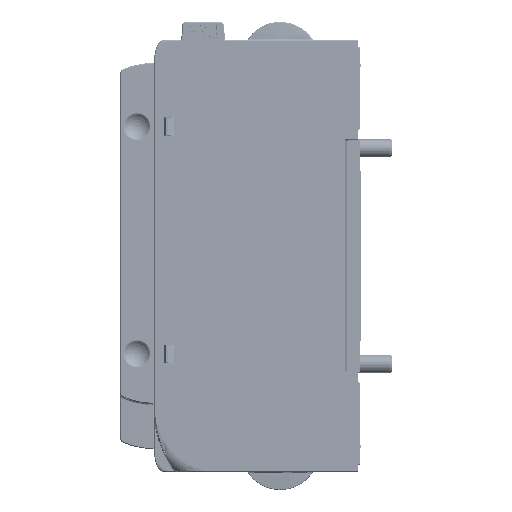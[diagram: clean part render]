
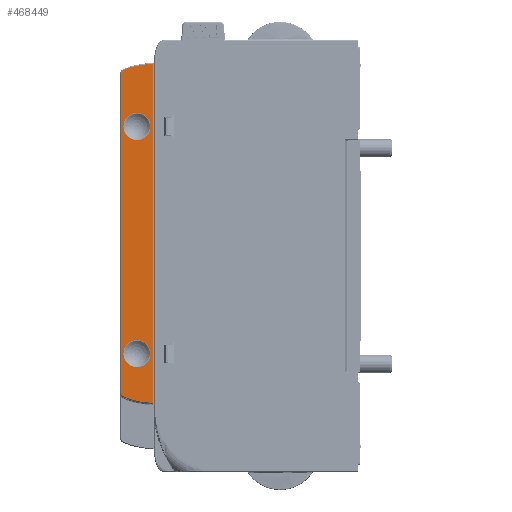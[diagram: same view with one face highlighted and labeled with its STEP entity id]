
A CAD part, left-side view. The second image highlights one B-rep face of the part: STEP entity #468449.
In plain terms, the highlighted planar face has unit normal (-1, 0, 0).
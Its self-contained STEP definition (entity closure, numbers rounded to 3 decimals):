
#443373=CARTESIAN_POINT('',(-17.5,3.75,28.5));
#443374=DIRECTION('',(1.,0.,0.));
#443375=DIRECTION('',(0.,1.,0.));
#443376=AXIS2_PLACEMENT_3D('',#443373,#443374,#443375);
#443381=CARTESIAN_POINT('',(-17.5,3.75,28.5));
#443382=DIRECTION('',(1.,0.,0.));
#443383=DIRECTION('',(0.,-1.,0.));
#443384=AXIS2_PLACEMENT_3D('',#443381,#443382,#443383);
#443389=CARTESIAN_POINT('',(-17.5,3.75,-21.5));
#443390=DIRECTION('',(1.,0.,0.));
#443391=DIRECTION('',(0.,1.,0.));
#443392=AXIS2_PLACEMENT_3D('',#443389,#443390,#443391);
#443397=CARTESIAN_POINT('',(-17.5,3.75,-21.5));
#443398=DIRECTION('',(1.,0.,0.));
#443399=DIRECTION('',(0.,-1.,0.));
#443400=AXIS2_PLACEMENT_3D('',#443397,#443398,#443399);
#443405=DIRECTION('',(0.,0.,1.));
#443406=VECTOR('',#443405,74.591);
#443407=CARTESIAN_POINT('',(-17.5,0.2,
-32.296));
#443408=LINE('',#443407,#443406);
#443412=CARTESIAN_POINT('',(-17.5,6.859,
-30.818));
#443413=CARTESIAN_POINT('',(-17.5,6.348,
-31.081));
#443414=CARTESIAN_POINT('',(-17.5,5.132,
-31.575));
#443415=CARTESIAN_POINT('',(-17.5,2.933,
-32.101));
#443416=CARTESIAN_POINT('',(-17.5,1.193,
-32.263));
#443417=CARTESIAN_POINT('',(-17.5,0.309,
-32.293));
#443418=CARTESIAN_POINT('',(-17.5,0.2,
-32.296));
#443423=CARTESIAN_POINT('',(-17.5,6.5,-30.103));
#443424=DIRECTION('',(-1.,0.,0.));
#443425=DIRECTION('',(0.,1.,0.));
#443426=AXIS2_PLACEMENT_3D('',#443423,#443424,#443425);
#443431=DIRECTION('',(0.,0.,-1.));
#443432=VECTOR('',#443431,70.207);
#443433=CARTESIAN_POINT('',(-17.5,7.3,
40.103));
#443434=LINE('',#443433,#443432);
#443438=CARTESIAN_POINT('',(-17.5,6.5,40.103));
#443439=DIRECTION('',(-1.,0.,0.));
#443440=DIRECTION('',(0.,0.449,0.894));
#443441=AXIS2_PLACEMENT_3D('',#443438,#443439,#443440);
#443446=CARTESIAN_POINT('',(-17.5,0.2,
42.296));
#443447=CARTESIAN_POINT('',(-17.5,0.764,
42.281));
#443448=CARTESIAN_POINT('',(-17.5,1.904,
42.212));
#443449=CARTESIAN_POINT('',(-17.5,3.713,
41.931));
#443450=CARTESIAN_POINT('',(-17.5,5.439,
41.455));
#443451=CARTESIAN_POINT('',(-17.5,6.411,
41.052));
#443452=CARTESIAN_POINT('',(-17.5,6.859,
40.819));
#464992=CARTESIAN_POINT('',(-17.5,0.2,
-32.296));
#464993=CARTESIAN_POINT('',(-17.5,0.2,
42.296));
#464994=VERTEX_POINT('',#464992);
#464995=VERTEX_POINT('',#464993);
#465008=CARTESIAN_POINT('',(-17.5,7.3,
40.103));
#465009=CARTESIAN_POINT('',(-17.5,7.3,
-30.103));
#465010=VERTEX_POINT('',#465008);
#465011=VERTEX_POINT('',#465009);
#465038=VERTEX_POINT('',#443452);
#465045=CARTESIAN_POINT('',(-17.5,6.73,28.5));
#465046=CARTESIAN_POINT('',(-17.5,0.77,28.5));
#465047=VERTEX_POINT('',#465045);
#465048=VERTEX_POINT('',#465046);
#465053=CARTESIAN_POINT('',(-17.5,6.73,-21.5));
#465054=CARTESIAN_POINT('',(-17.5,0.77,-21.5));
#465055=VERTEX_POINT('',#465053);
#465056=VERTEX_POINT('',#465054);
#465755=VERTEX_POINT('',#443412);
#468418=CARTESIAN_POINT('',(-17.5,0.,0.));
#468419=DIRECTION('',(1.,0.,0.));
#468420=DIRECTION('',(0.,0.,-1.));
#468421=AXIS2_PLACEMENT_3D('',#468418,#468419,#468420);
#468422=PLANE('',#468421);
#468424=ORIENTED_EDGE('',*,*,#468423,.F.);
#468426=ORIENTED_EDGE('',*,*,#468425,.F.);
#468428=ORIENTED_EDGE('',*,*,#468427,.F.);
#468430=ORIENTED_EDGE('',*,*,#468429,.F.);
#468432=ORIENTED_EDGE('',*,*,#468431,.F.);
#468434=ORIENTED_EDGE('',*,*,#468433,.F.);
#468435=EDGE_LOOP('',(#468424,#468426,#468428,#468430,#468432,#468434));
#468436=FACE_OUTER_BOUND('',#468435,.F.);
#468438=ORIENTED_EDGE('',*,*,#468437,.F.);
#468440=ORIENTED_EDGE('',*,*,#468439,.F.);
#468441=EDGE_LOOP('',(#468438,#468440));
#468442=FACE_BOUND('',#468441,.F.);
#468444=ORIENTED_EDGE('',*,*,#468443,.F.);
#468446=ORIENTED_EDGE('',*,*,#468445,.F.);
#468447=EDGE_LOOP('',(#468444,#468446));
#468448=FACE_BOUND('',#468447,.F.);
#443377=CIRCLE('',#443376,2.98);
#443385=CIRCLE('',#443384,2.98);
#443393=CIRCLE('',#443392,2.98);
#443401=CIRCLE('',#443400,2.98);
#443419=B_SPLINE_CURVE_WITH_KNOTS('',3,(#443412,#443413,#443414,#443415,#443416,
#443417,#443418),.UNSPECIFIED.,.F.,.F.,(4,1,1,1,4),(0.,0.305,
0.63,0.954,1.),.UNSPECIFIED.);
#443427=CIRCLE('',#443426,0.8);
#443442=CIRCLE('',#443441,0.8);
#443453=B_SPLINE_CURVE_WITH_KNOTS('',3,(#443446,#443447,#443448,#443449,#443450,
#443451,#443452),.UNSPECIFIED.,.F.,.F.,(4,1,1,1,4),(0.,0.25,0.5,0.75,
1.),.UNSPECIFIED.);
#468423=EDGE_CURVE('',#464994,#464995,#443408,.T.);
#468425=EDGE_CURVE('',#465755,#464994,#443419,.T.);
#468427=EDGE_CURVE('',#465011,#465755,#443427,.T.);
#468429=EDGE_CURVE('',#465010,#465011,#443434,.T.);
#468431=EDGE_CURVE('',#465038,#465010,#443442,.T.);
#468433=EDGE_CURVE('',#464995,#465038,#443453,.T.);
#468437=EDGE_CURVE('',#465055,#465056,#443393,.T.);
#468439=EDGE_CURVE('',#465056,#465055,#443401,.T.);
#468443=EDGE_CURVE('',#465047,#465048,#443377,.T.);
#468445=EDGE_CURVE('',#465048,#465047,#443385,.T.);
#468449=ADVANCED_FACE('',(#468436,#468442,#468448),#468422,.F.);
